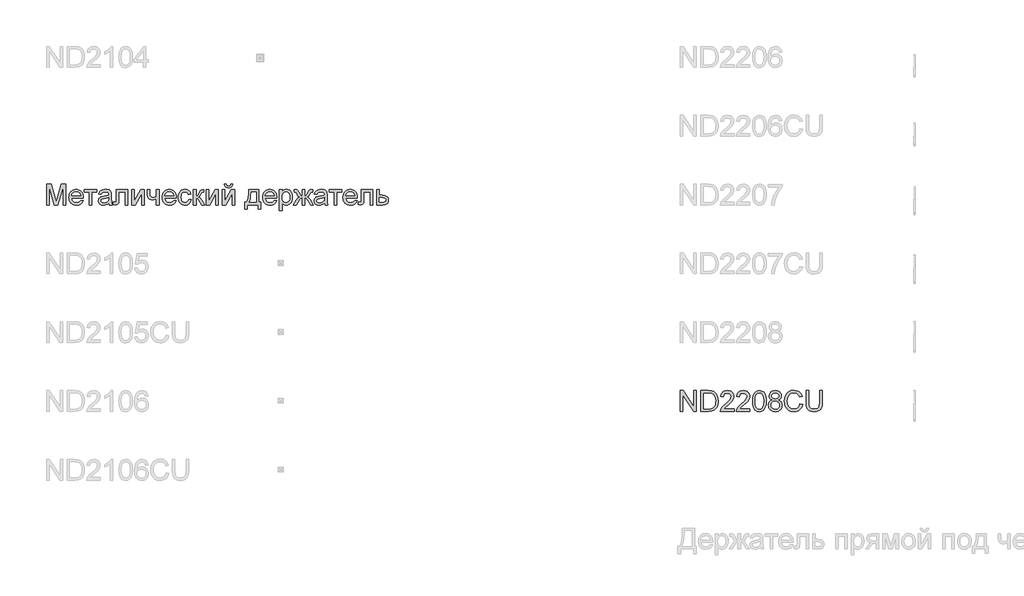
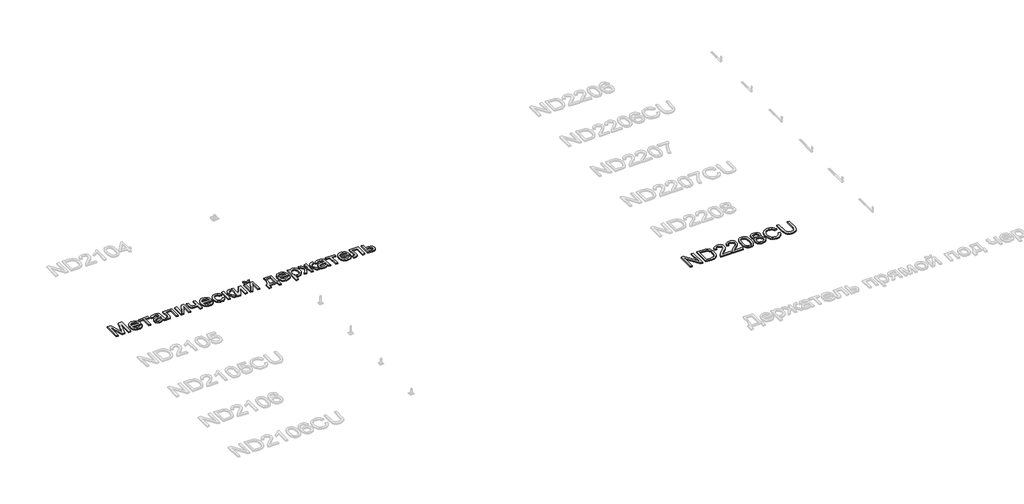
# One storey, part 90 of 124: 2 proxies.
"""IFC4 building model written with IfcOpenShell, lengths in millimetres."""

from ifc_helpers import new_model, si_unit, origin, origin_with_axes, place, context, project, spatial, polyline, outline, extrude, element, save

model = new_model("IFC4")

# Units and contexts
model_context = context("Model", 3, world=origin())
ifc_project = project(units=[si_unit("LENGTHUNIT", "METRE", prefix="MILLI")], contexts=[model_context])

# Site, building, storey
site = spatial("IfcSite", under=ifc_project)
building = spatial("IfcBuilding", under=site)
storey = spatial("IfcBuildingStorey", under=building, Name="Этаж 01", Elevation=0.0)

# Proxies
placement = place(None, origin())
element("IfcBuildingElementProxy", 1, Name="300", ObjectType="300", at=placement, inside=storey, context=model_context, shape_type="SweptSolid", body=[
    extrude(outline(polyline([(14140.1671275, -21519.5141033), (14140.1671275, -21218.1451728), (14204.9879351, -21218.1451728), (14266.6449575, -21430.5602368), (14279.0793689, -21474.9268054), (14292.5438499, -21426.8814169), (14353.1708027, -21218.1451728), (14417.9916103, -21218.1451728), (14417.9916103, -21519.5141033), (14380.320494, -21519.5141033), (14380.320494, -21255.8162891), (14304.6103794, -21519.5141033), (14253.5483584, -21519.5141033), (14177.8382438, -21255.8162891), (14177.8382438, -21519.5141033), (14140.1671275, -21519.5141033)])), origin_with_axes(), (0.0, 0.0, 1.0), 20.0),
    extrude(outline(polyline([(14634.1590707, -21453.5896497), (14671.094423, -21458.2985393), (14657.7862918, -21486.1288122), (14636.5503036, -21506.932539), (14607.864705, -21519.9003794), (14572.2077427, -21524.2229928), (14548.8334404, -21522.3582909), (14528.0067209, -21516.7641853), (14509.7275843, -21507.440676), (14493.9960305, -21494.387763), (14481.3454884, -21477.9687297), (14472.3093869, -21458.5468596), (14466.887726, -21436.1221527), (14465.0805057, -21410.6946091), (14466.9061201, -21384.404842), (14472.3829633, -21361.2328748), (14481.5110353, -21341.1787076), (14494.2903361, -21324.2423402), (14509.9805032, -21310.7870562), (14527.841174, -21301.1761391), (14547.8723487, -21295.4095888), (14570.0740271, -21293.4874054), (14591.5606349, -21295.4049903), (14610.991702, -21301.157745), (14628.3672285, -21310.7456695), (14643.6872143, -21324.1687638), (14656.1929029, -21341.068343), (14665.1255376, -21361.085722), (14670.4851184, -21384.220901), (14672.2716454, -21410.4738799), (14672.0509162, -21420.627423), (14502.751622, -21420.627423), (14509.2723303, -21448.8255779), (14524.4198715, -21469.5557283), (14546.2812591, -21482.3028394), (14572.9435067, -21486.5518765), (14592.9930754, -21484.5837078), (14609.878859, -21478.6792018), (14623.6008574, -21468.4704764), (14634.1590707, -21453.5896497)]), holes=[polyline([(14502.751622, -21382.9563067), (14634.600529, -21382.9563067), (14629.5053634, -21363.0538907), (14619.5173672, -21348.8168575), (14597.5548121, -21335.5731057), (14569.9268743, -21331.1585217), (14544.5338196, -21334.6809918), (14523.5369547, -21345.2484021), (14508.9412365, -21361.7203185), (14502.751622, -21382.9563067)])]), origin_with_axes(), (0.0, 0.0, 1.0), 20.0),
    extrude(outline(polyline([(14691.1072035, -21298.196295), (14870.045006, -21298.196295), (14870.045006, -21335.8674113), (14799.4116629, -21335.8674113), (14799.4116629, -21519.5141033), (14761.7405466, -21519.5141033), (14761.7405466, -21335.8674113), (14691.1072035, -21335.8674113), (14691.1072035, -21298.196295)])), origin_with_axes(), (0.0, 0.0, 1.0), 20.0),
    extrude(outline(polyline([(15044.2739189, -21491.260766), (15026.2752923, -21506.6934157), (15007.7432368, -21516.7917765), (14988.2546881, -21522.3651887), (14967.3865819, -21524.2229928), (14935.9050801, -21519.7532266), (14912.6825292, -21506.3439278), (14898.3627225, -21485.9816594), (14893.5894537, -21460.652984), (14895.3920754, -21445.0363933), (14900.7999408, -21430.8545424), (14909.141665, -21418.7144366), (14919.7458635, -21409.2230811), (14946.1230026, -21396.8622461), (14978.7173473, -21391.1968633), (15017.2345922, -21385.237175), (15044.0531897, -21378.2474171), (15044.2739189, -21369.8597076), (15041.6803508, -21353.0475004), (15033.8996466, -21342.0478288), (15016.4988282, -21333.8808485), (14992.2554048, -21331.1585217), (14969.8146031, -21332.9703406), (14954.1428301, -21338.405797), (14943.4558581, -21348.4581726), (14935.9694595, -21364.1207485), (14898.2983432, -21359.411859), (14904.8374457, -21338.8104672), (14914.5955156, -21322.6236594), (14928.4830609, -21310.2444303), (14947.4105895, -21301.0657745), (14970.5595641, -21295.3819977), (14997.1114471, -21293.4874054), (15022.5780782, -21295.1612685), (15042.7656027, -21300.1828577), (15057.9867202, -21307.7336357), (15068.5541306, -21316.9950649), (15075.5622826, -21328.445392), (15080.1056252, -21342.5628636), (15081.9450352, -21375.5250903), (15081.9450352, -21422.3932565), (15083.8580216, -21487.8394635), (15091.3628143, -21519.5141033), (15053.691698, -21519.5141033), (15044.2739189, -21491.260766)]), holes=[polyline([(15044.2739189, -21415.9185334), (14983.4998133, -21427.4700281), (14951.0894095, -21433.5768692), (14936.4109179, -21443.5096831), (14931.26057, -21458.0042337), (14934.0656702, -21469.2062404), (14942.4809708, -21478.3848962), (14956.3225309, -21484.5101314), (14975.4064094, -21486.5518765), (14995.6399191, -21484.2985993), (15013.5189841, -21477.5387676), (15028.0135347, -21467.5783626), (15038.0935014, -21455.7233653), (15042.5632676, -21443.5096831), (15044.0531897, -21426.5871113), (15044.2739189, -21415.9185334)])]), origin_with_axes(), (0.0, 0.0, 1.0), 20.0),
    extrude(outline(polyline([(15152.5783783, -21298.196295), (15322.0984016, -21298.196295), (15322.0984016, -21519.2933741), (15284.4272853, -21519.2933741), (15284.4272853, -21335.8674113), (15190.2494946, -21335.8674113), (15190.2494946, -21441.4495439), (15187.7111088, -21490.15712), (15182.956234, -21501.1843829), (15173.7683812, -21510.7217236), (15159.8256536, -21517.3160083), (15140.8061544, -21519.5141033), (15110.1983724, -21517.6011169), (15110.1983724, -21481.842987), (15127.0473678, -21481.842987), (15144.0803042, -21479.5253304), (15150.8861211, -21472.1676905), (15152.5783783, -21439.3158283), (15152.5783783, -21298.196295)])), origin_with_axes(), (0.0, 0.0, 1.0), 20.0),
    extrude(outline(polyline([(15378.6050761, -21298.196295), (15416.2761924, -21298.196295), (15416.2761924, -21466.9805543), (15508.8353024, -21298.196295), (15557.5428785, -21298.196295), (15557.5428785, -21519.5141033), (15519.8717622, -21519.5141033), (15519.8717622, -21351.7599135), (15427.9012634, -21519.5141033), (15378.6050761, -21519.5141033), (15378.6050761, -21298.196295)])), origin_with_axes(), (0.0, 0.0, 1.0), 20.0),
    extrude(outline(polyline([(15599.9228844, -21298.196295), (15637.5940007, -21298.196295), (15637.5940007, -21340.6498772), (15640.6474213, -21380.4547091), (15645.8437544, -21392.0245978), (15655.3259129, -21402.012594), (15668.4225119, -21408.9103814), (15684.4621669, -21411.2096439), (15707.5099739, -21408.3585584), (15736.480681, -21399.805302), (15736.480681, -21298.196295), (15774.1517973, -21298.196295), (15774.1517973, -21519.5141033), (15736.480681, -21519.5141033), (15736.480681, -21435.931314), (15704.3277946, -21445.6433986), (15674.3822002, -21448.8807602), (15651.6011077, -21445.5054429), (15631.6711006, -21435.379491), (15616.1372833, -21420.3607085), (15606.5447603, -21402.3068996), (15601.5783534, -21381.7606902), (15599.9228844, -21359.2647062), (15599.9228844, -21298.196295)])), origin_with_axes(), (0.0, 0.0, 1.0), 20.0),
    extrude(outline(polyline([(15985.6103681, -21453.5896497), (16022.5457204, -21458.2985393), (16009.2375893, -21486.1288122), (15988.0016011, -21506.932539), (15959.3160025, -21519.9003794), (15923.6590401, -21524.2229928), (15900.2847379, -21522.3582909), (15879.4580184, -21516.7641853), (15861.1788818, -21507.440676), (15845.447328, -21494.387763), (15832.7967859, -21477.9687297), (15823.7606844, -21458.5468596), (15818.3390235, -21436.1221527), (15816.5318031, -21410.6946091), (15818.3574176, -21384.404842), (15823.8342608, -21361.2328748), (15832.9623328, -21341.1787076), (15845.7416336, -21324.2423402), (15861.4318007, -21310.7870562), (15879.2924715, -21301.1761391), (15899.3236462, -21295.4095888), (15921.5253246, -21293.4874054), (15943.0119324, -21295.4049903), (15962.4429995, -21301.157745), (15979.818526, -21310.7456695), (15995.1385118, -21324.1687638), (16007.6442004, -21341.068343), (16016.5768351, -21361.085722), (16021.9364159, -21384.220901), (16023.7229428, -21410.4738799), (16023.5022136, -21420.627423), (15854.2029195, -21420.627423), (15860.7236278, -21448.8255779), (15875.871169, -21469.5557283), (15897.7325565, -21482.3028394), (15924.3948041, -21486.5518765), (15944.4443729, -21484.5837078), (15961.3301565, -21478.6792018), (15975.0521549, -21468.4704764), (15985.6103681, -21453.5896497)]), holes=[polyline([(15854.2029195, -21382.9563067), (15986.0518265, -21382.9563067), (15980.9566609, -21363.0538907), (15970.9686647, -21348.8168575), (15949.0061096, -21335.5731057), (15921.3781718, -21331.1585217), (15895.9851171, -21334.6809918), (15874.9882522, -21345.2484021), (15860.392534, -21361.7203185), (15854.2029195, -21382.9563067)])]), origin_with_axes(), (0.0, 0.0, 1.0), 20.0),
    extrude(outline(polyline([(16202.6607453, -21439.4629811), (16240.3318616, -21444.1718706), (16229.8288306, -21477.6767234), (16210.0919616, -21502.9962017), (16182.9790585, -21518.916295), (16150.3479256, -21524.2229928), (16129.2200027, -21522.3720865), (16110.2763792, -21516.8193676), (16093.5170551, -21507.5648362), (16078.9420303, -21494.6084922), (16067.1445146, -21478.1940574), (16058.7177176, -21458.5652537), (16053.6616395, -21435.7220811), (16051.9762801, -21409.6645395), (16054.8549567, -21376.1412927), (16063.4909865, -21347.0878121), (16078.0223253, -21323.6261379), (16098.5869289, -21306.87831), (16123.1890373, -21296.8351316), (16149.8328908, -21293.4874054), (16181.6638804, -21298.0859304), (16207.1121174, -21311.8815052), (16225.3682614, -21334.1383659), (16235.6229721, -21364.1207485), (16197.9518557, -21368.829638), (16191.1184477, -21352.3945099), (16180.477461, -21340.613089), (16166.6175068, -21333.5221635), (16150.1271964, -21331.1585217), (16125.7826053, -21335.812229), (16106.4596035, -21349.7733507), (16093.8504482, -21373.796045), (16089.6473964, -21408.6344699), (16093.7584777, -21443.9419444), (16106.0917216, -21468.0474121), (16125.0652355, -21481.9257604), (16149.0971268, -21486.5518765), (16168.6040696, -21483.6640028), (16184.5977393, -21475.0003818), (16196.2320074, -21460.3402843), (16202.6607453, -21439.4629811)])), origin_with_axes(), (0.0, 0.0, 1.0), 20.0),
    extrude(outline(polyline([(16273.2940884, -21298.196295), (16310.9652047, -21298.196295), (16310.9652047, -21392.3740857), (16326.2874898, -21390.6818285), (16336.2019095, -21385.605057), (16344.9758951, -21372.3613052), (16356.8768777, -21346.1681071), (16374.0569668, -21312.1390226), (16389.213705, -21301.0657745), (16416.7680665, -21298.196295), (16423.9785536, -21298.196295), (16423.9785536, -21336.0881405), (16413.8250105, -21335.8674113), (16395.4309108, -21339.8405368), (16382.4814645, -21364.6357833), (16367.2879381, -21391.4543807), (16345.9875706, -21404.587768), (16357.9253414, -21409.8898672), (16369.7527475, -21419.2478655), (16393.076466, -21450.131559), (16433.3963327, -21519.5141033), (16390.5748684, -21519.5141033), (16351.0643421, -21451.603087), (16331.1987144, -21422.8715031), (16321.909694, -21417.6567758), (16310.9652047, -21415.9185334), (16310.9652047, -21519.5141033), (16273.2940884, -21519.5141033), (16273.2940884, -21298.196295)])), origin_with_axes(), (0.0, 0.0, 1.0), 20.0),
    extrude(outline(polyline([(16456.9407804, -21298.196295), (16494.6118967, -21298.196295), (16494.6118967, -21466.9805543), (16587.1710066, -21298.196295), (16635.8785828, -21298.196295), (16635.8785828, -21519.5141033), (16598.2074665, -21519.5141033), (16598.2074665, -21351.7599135), (16506.2369677, -21519.5141033), (16456.9407804, -21519.5141033), (16456.9407804, -21298.196295)])), origin_with_axes(), (0.0, 0.0, 1.0), 20.0),
    extrude(outline(polyline([(16692.3852573, -21298.196295), (16730.0563736, -21298.196295), (16730.0563736, -21466.9805543), (16822.6154836, -21298.196295), (16871.3230597, -21298.196295), (16871.3230597, -21519.5141033), (16833.6519434, -21519.5141033), (16833.6519434, -21351.7599135), (16741.6814446, -21519.5141033), (16692.3852573, -21519.5141033), (16692.3852573, -21298.196295)])), origin_with_axes(), (0.0, 0.0, 1.0), 20.0),
    extrude(outline(polyline([(16814.8163853, -21218.1451728), (16843.0697225, -21218.1451728), (16836.9904725, -21242.2690346), (16824.7859873, -21260.0469321), (16807.0080899, -21271.0006185), (16784.2086033, -21274.6518473), (16759.4685391, -21271.0282096), (16740.283493, -21260.1572967), (16727.1684999, -21242.4069904), (16720.6385945, -21218.1451728), (16748.8919317, -21218.1451728), (16752.8650573, -21230.5519931), (16759.4869332, -21239.3719639), (16768.7943477, -21244.6418735), (16780.8240889, -21246.39851), (16794.3989345, -21244.6970558), (16804.2213838, -21239.5926931), (16810.8432597, -21230.8279046), (16814.8163853, -21218.1451728)])), origin_with_axes(), (0.0, 0.0, 1.0), 20.0),
    extrude(outline(polyline([(17078.5141994, -21298.196295), (17219.7808856, -21298.196295), (17219.7808856, -21481.842987), (17248.0342228, -21481.842987), (17248.0342228, -21580.7296673), (17210.3631065, -21580.7296673), (17210.3631065, -21519.5141033), (17054.9697517, -21519.5141033), (17054.9697517, -21580.7296673), (17017.2986354, -21580.7296673), (17017.2986354, -21481.842987), (17040.8430831, -21481.842987), (17057.9587929, -21450.9133082), (17069.9425489, -21409.9956333), (17076.7943511, -21359.0899622), (17078.5141994, -21298.196295)]), holes=[polyline([(17111.4764262, -21335.8674113), (17108.3862174, -21381.9906164), (17102.6472583, -21421.6942807), (17094.2595488, -21454.9784043), (17083.2230889, -21481.842987), (17182.1097692, -21481.842987), (17182.1097692, -21335.8674113), (17111.4764262, -21335.8674113)])]), origin_with_axes(), (0.0, 0.0, 1.0), 20.0),
    extrude(outline(polyline([(17445.366125, -21453.5896497), (17482.3014773, -21458.2985393), (17468.9933461, -21486.1288122), (17447.757358, -21506.932539), (17419.0717594, -21519.9003794), (17383.414797, -21524.2229928), (17360.0404947, -21522.3582909), (17339.2137753, -21516.7641853), (17320.9346387, -21507.440676), (17305.2030848, -21494.387763), (17292.5525427, -21477.9687297), (17283.5164412, -21458.5468596), (17278.0947803, -21436.1221527), (17276.28756, -21410.6946091), (17278.1131744, -21384.404842), (17283.5900176, -21361.2328748), (17292.7180896, -21341.1787076), (17305.4973904, -21324.2423402), (17321.1875575, -21310.7870562), (17339.0482284, -21301.1761391), (17359.079403, -21295.4095888), (17381.2810814, -21293.4874054), (17402.7676892, -21295.4049903), (17422.1987563, -21301.157745), (17439.5742828, -21310.7456695), (17454.8942687, -21324.1687638), (17467.3999572, -21341.068343), (17476.3325919, -21361.085722), (17481.6921728, -21384.220901), (17483.4786997, -21410.4738799), (17483.2579705, -21420.627423), (17313.9586763, -21420.627423), (17320.4793847, -21448.8255779), (17335.6269258, -21469.5557283), (17357.4883134, -21482.3028394), (17384.150561, -21486.5518765), (17404.2001297, -21484.5837078), (17421.0859133, -21478.6792018), (17434.8079117, -21468.4704764), (17445.366125, -21453.5896497)]), holes=[polyline([(17313.9586763, -21382.9563067), (17445.8075834, -21382.9563067), (17440.7124178, -21363.0538907), (17430.7244216, -21348.8168575), (17408.7618665, -21335.5731057), (17381.1339286, -21331.1585217), (17355.7408739, -21334.6809918), (17334.744009, -21345.2484021), (17320.1482909, -21361.7203185), (17313.9586763, -21382.9563067)])]), origin_with_axes(), (0.0, 0.0, 1.0), 20.0),
    extrude(outline(polyline([(17521.149816, -21604.2741149), (17521.149816, -21298.196295), (17558.8209323, -21298.196295), (17558.8209323, -21335.1316473), (17571.1081909, -21316.9122915), (17584.8669776, -21303.8984659), (17600.9066326, -21296.0901705), (17620.0364963, -21293.4874054), (17645.5123245, -21297.1294372), (17667.7875793, -21308.0555324), (17685.9241616, -21325.6035036), (17698.9839725, -21349.1111631), (17706.8750413, -21376.8678596), (17709.5053975, -21407.1629419), (17706.5347504, -21439.3802077), (17697.6228091, -21468.1945649), (17683.0546821, -21492.1436828), (17663.1154779, -21509.7652304), (17639.892927, -21520.6085522), (17615.4747596, -21524.2229928), (17598.1567146, -21521.8041687), (17582.6964738, -21514.5476963), (17569.461919, -21503.5940099), (17558.8209323, -21490.0835436), (17558.8209323, -21604.2741149), (17521.149816, -21604.2741149)]), holes=[polyline([(17558.8209323, -21410.6210327), (17562.8952254, -21444.3925998), (17575.1181047, -21468.0106239), (17593.1535195, -21481.9165634), (17614.6654192, -21486.5518765), (17636.5268067, -21481.7510165), (17655.022074, -21467.3484363), (17667.6312294, -21442.8658896), (17671.8342812, -21407.8251295), (17667.732397, -21374.2375034), (17655.4267442, -21350.2883855), (17637.4189206, -21335.9409877), (17616.2105236, -21331.1585217), (17594.9193531, -21336.2444903), (17576.2217507, -21351.5023961), (17563.1711369, -21376.4539924), (17558.8209323, -21410.6210327)])]), origin_with_axes(), (0.0, 0.0, 1.0), 20.0),
    extrude(outline(polyline([(17888.4432, -21298.196295), (17888.4432, -21392.3740857), (17901.7329371, -21390.4335082), (17910.4057551, -21384.6117756), (17931.1910878, -21344.3286972), (17944.1589282, -21319.220751), (17955.9863343, -21305.7010877), (17970.3521262, -21300.0724931), (17991.2294294, -21298.196295), (18006.1654384, -21298.196295), (18006.1654384, -21336.0881405), (17995.7911662, -21335.8674113), (17976.3669968, -21339.7669604), (17962.9025158, -21364.1943249), (17947.267531, -21390.9761341), (17924.9370939, -21404.587768), (17937.3301186, -21409.8898672), (17949.5667935, -21419.2478655), (17973.5710937, -21450.131559), (18015.5832175, -21519.5141033), (17972.3938713, -21519.5141033), (17931.043935, -21451.0880522), (17919.7407607, -21433.1262137), (17909.9642967, -21422.6507739), (17900.0774681, -21417.6015935), (17888.4432, -21415.9185334), (17888.4432, -21519.5141033), (17850.7720837, -21519.5141033), (17850.7720837, -21415.9185334), (17839.2297861, -21417.5648053), (17829.3245634, -21422.5036211), (17819.4745229, -21432.9054845), (17808.0977722, -21450.9408994), (17766.747836, -21519.5141033), (17723.6320661, -21519.5141033), (17765.4970372, -21450.131559), (17789.6852784, -21419.2478655), (17801.9863326, -21409.8898672), (17814.4253426, -21404.587768), (17800.0411565, -21397.3772809), (17790.7337421, -21389.5781826), (17770.4266559, -21350.9505731), (17760.4938421, -21338.221856), (17744.2334579, -21335.6466821), (17733.0498452, -21335.8674113), (17733.0498452, -21298.196295), (17738.7152279, -21298.196295), (17771.7510311, -21300.5507397), (17788.8943321, -21310.55713), (17808.0977722, -21344.3286972), (17828.6623758, -21384.3542582), (17837.3351938, -21390.3691289), (17850.7720837, -21392.3740857), (17850.7720837, -21298.196295), (17888.4432, -21298.196295)])), origin_with_axes(), (0.0, 0.0, 1.0), 20.0),
    extrude(outline(polyline([(18175.6854618, -21491.260766), (18157.6868352, -21506.6934157), (18139.1547797, -21516.7917765), (18119.666231, -21522.3651887), (18098.7981248, -21524.2229928), (18067.3166231, -21519.7532266), (18044.0940721, -21506.3439278), (18029.7742655, -21485.9816594), (18025.0009966, -21460.652984), (18026.8036184, -21445.0363933), (18032.2114837, -21430.8545424), (18040.5532079, -21418.7144366), (18051.1574065, -21409.2230811), (18077.5345455, -21396.8622461), (18110.1288903, -21391.1968633), (18148.6461352, -21385.237175), (18175.4647326, -21378.2474171), (18175.6854618, -21369.8597076), (18173.0918938, -21353.0475004), (18165.3111896, -21342.0478288), (18147.9103712, -21333.8808485), (18123.6669477, -21331.1585217), (18101.226146, -21332.9703406), (18085.554373, -21338.405797), (18074.867401, -21348.4581726), (18067.3810024, -21364.1207485), (18029.7098861, -21359.411859), (18036.2489886, -21338.8104672), (18046.0070585, -21322.6236594), (18059.8946038, -21310.2444303), (18078.8221325, -21301.0657745), (18101.971107, -21295.3819977), (18128.52299, -21293.4874054), (18153.9896212, -21295.1612685), (18174.1771456, -21300.1828577), (18189.3982632, -21307.7336357), (18199.9656735, -21316.9950649), (18206.9738255, -21328.445392), (18211.5171681, -21342.5628636), (18213.3565781, -21375.5250903), (18213.3565781, -21422.3932565), (18215.2695645, -21487.8394635), (18222.7743572, -21519.5141033), (18185.1032409, -21519.5141033), (18175.6854618, -21491.260766)]), holes=[polyline([(18175.6854618, -21415.9185334), (18114.9113562, -21427.4700281), (18082.5009524, -21433.5768692), (18067.8224608, -21443.5096831), (18062.6721129, -21458.0042337), (18065.4772131, -21469.2062404), (18073.8925138, -21478.3848962), (18087.7340738, -21484.5101314), (18106.8179523, -21486.5518765), (18127.0514621, -21484.2985993), (18144.930527, -21477.5387676), (18159.4250776, -21467.5783626), (18169.5050443, -21455.7233653), (18173.9748105, -21443.5096831), (18175.4647326, -21426.5871113), (18175.6854618, -21415.9185334)])]), origin_with_axes(), (0.0, 0.0, 1.0), 20.0),
    extrude(outline(polyline([(18246.3188049, -21298.196295), (18425.2566073, -21298.196295), (18425.2566073, -21335.8674113), (18354.6232643, -21335.8674113), (18354.6232643, -21519.5141033), (18316.952148, -21519.5141033), (18316.952148, -21335.8674113), (18246.3188049, -21335.8674113), (18246.3188049, -21298.196295)])), origin_with_axes(), (0.0, 0.0, 1.0), 20.0),
    extrude(outline(polyline([(18613.1707305, -21453.5896497), (18650.1060828, -21458.2985393), (18636.7979516, -21486.1288122), (18615.5619635, -21506.932539), (18586.8763649, -21519.9003794), (18551.2194025, -21524.2229928), (18527.8451002, -21522.3582909), (18507.0183808, -21516.7641853), (18488.7392441, -21507.440676), (18473.0076903, -21494.387763), (18460.3571482, -21477.9687297), (18451.3210467, -21458.5468596), (18445.8993858, -21436.1221527), (18444.0921655, -21410.6946091), (18445.9177799, -21384.404842), (18451.3946231, -21361.2328748), (18460.5226951, -21341.1787076), (18473.3019959, -21324.2423402), (18488.992163, -21310.7870562), (18506.8528339, -21301.1761391), (18526.8840085, -21295.4095888), (18549.0856869, -21293.4874054), (18570.5722947, -21295.4049903), (18590.0033618, -21301.157745), (18607.3788883, -21310.7456695), (18622.6988742, -21324.1687638), (18635.2045627, -21341.068343), (18644.1371974, -21361.085722), (18649.4967782, -21384.220901), (18651.2833052, -21410.4738799), (18651.062576, -21420.627423), (18481.7632818, -21420.627423), (18488.2839902, -21448.8255779), (18503.4315313, -21469.5557283), (18525.2929189, -21482.3028394), (18551.9551665, -21486.5518765), (18572.0047352, -21484.5837078), (18588.8905188, -21478.6792018), (18602.6125172, -21468.4704764), (18613.1707305, -21453.5896497)]), holes=[polyline([(18481.7632818, -21382.9563067), (18613.6121889, -21382.9563067), (18608.5170232, -21363.0538907), (18598.5290271, -21348.8168575), (18576.566472, -21335.5731057), (18548.9385341, -21331.1585217), (18523.5454794, -21334.6809918), (18502.5486145, -21345.2484021), (18487.9528964, -21361.7203185), (18481.7632818, -21382.9563067)])]), origin_with_axes(), (0.0, 0.0, 1.0), 20.0),
    extrude(outline(polyline([(18707.7899796, -21298.196295), (18877.310003, -21298.196295), (18877.310003, -21519.2933741), (18839.6388867, -21519.2933741), (18839.6388867, -21335.8674113), (18745.4610959, -21335.8674113), (18745.4610959, -21441.4495439), (18742.9227102, -21490.15712), (18738.1678354, -21501.1843829), (18728.9799826, -21510.7217236), (18715.0372549, -21517.3160083), (18696.0177558, -21519.5141033), (18665.4099738, -21517.6011169), (18665.4099738, -21481.842987), (18682.2589692, -21481.842987), (18699.2919056, -21479.5253304), (18706.0977225, -21472.1676905), (18707.7899796, -21439.3158283), (18707.7899796, -21298.196295)])), origin_with_axes(), (0.0, 0.0, 1.0), 20.0),
    extrude(outline(polyline([(18933.8166775, -21298.196295), (18971.4877938, -21298.196295), (18971.4877938, -21378.2474171), (19014.8978692, -21378.2474171), (19052.5321973, -21382.9655037), (19067.6797385, -21388.8631119), (19080.3808644, -21397.1197635), (19090.4240428, -21407.4503497), (19097.5977417, -21419.5697622), (19103.3367009, -21449.1750658), (19098.4530674, -21476.131619), (19083.8021669, -21498.8759233), (19072.5702697, -21507.9051271), (19058.4091122, -21514.3545583), (19021.2990159, -21519.5141033), (18933.8166775, -21519.5141033), (18933.8166775, -21298.196295)]), holes=[polyline([(18971.4877938, -21481.842987), (19006.6573125, -21481.842987), (19033.9449595, -21479.8656212), (19052.0907389, -21473.9335241), (19062.2718731, -21463.8075721), (19065.6655846, -21449.2486422), (19063.1547899, -21436.9429894), (19055.6224061, -21426.0720765), (19039.4815835, -21418.4569192), (19011.1454729, -21415.9185334), (18971.4877938, -21415.9185334), (18971.4877938, -21481.842987)])]), origin_with_axes(), (0.0, 0.0, 1.0), 20.0),
])
element("IfcBuildingElementProxy", 2, Name="300", ObjectType="300", at=placement, inside=storey, context=model_context, shape_type="SweptSolid", body=[
    extrude(outline(polyline([(23340.1671275, -24519.5141033), (23340.1671275, -24218.1451728), (23380.4869942, -24218.1451728), (23537.9404881, -24456.9005877), (23537.9404881, -24218.1451728), (23575.6116044, -24218.1451728), (23575.6116044, -24519.5141033), (23535.2917378, -24519.5141033), (23377.8382438, -24280.685112), (23377.8382438, -24519.5141033), (23340.1671275, -24519.5141033)])), origin_with_axes(), (0.0, 0.0, 1.0), 20.0),
    extrude(outline(polyline([(23641.536058, -24519.5141033), (23641.536058, -24218.1451728), (23745.4995098, -24218.1451728), (23799.2838575, -24222.4861804), (23823.3065518, -24230.8554957), (23843.5768497, -24244.0440653), (23864.4173648, -24266.9999018), (23879.2614033, -24295.5475446), (23888.1457534, -24329.1351708), (23891.1072035, -24367.2109573), (23889.1022466, -24399.5569817), (23883.087376, -24428.0218511), (23873.9271143, -24452.2560775), (23862.4859843, -24471.9101731), (23849.3158089, -24487.4255962), (23834.968411, -24499.2438053), (23818.4964947, -24508.0085939), (23798.9527637, -24514.3637553), (23750.5027049, -24519.5141033), (23641.536058, -24519.5141033)]), holes=[polyline([(23679.2071743, -24481.842987), (23745.8673918, -24481.842987), (23773.4401473, -24480.4818236), (23794.3542388, -24476.3983334), (23810.1363764, -24469.8316398), (23822.3132704, -24461.020866), (23835.4006724, -24444.7144966), (23845.2323187, -24423.6072671), (23851.3851451, -24397.6072071), (23853.4360872, -24366.6223461), (23849.4169764, -24325.5667154), (23837.359644, -24295.253239), (23819.5449584, -24274.4311181), (23798.2537879, -24261.8495538), (23776.5855384, -24257.3246053), (23744.8373222, -24255.8162891), (23679.2071743, -24255.8162891), (23679.2071743, -24481.842987)])]), origin_with_axes(), (0.0, 0.0, 1.0), 20.0),
    extrude(outline(polyline([(24121.8427909, -24481.842987), (24121.8427909, -24519.5141033), (23924.0694303, -24519.5141033), (23928.1161322, -24493.5416344), (23937.4051526, -24473.2437453), (23950.9983923, -24453.5528615), (23970.661685, -24432.9422727), (23998.1608641, -24409.8852687), (24038.8118246, -24373.7776509), (24063.2024008, -24347.1246003), (24075.397689, -24325.493139), (24079.462785, -24304.4502889), (24075.6276152, -24285.5871396), (24064.1221058, -24269.9061695), (24046.4361789, -24259.3387592), (24024.0597566, -24255.8162891), (24000.5612941, -24259.2559858), (23982.3051501, -24269.5750757), (23970.5237292, -24285.9642186), (23966.4494361, -24307.614074), (23928.7783198, -24302.9051845), (23937.9109903, -24266.4664729), (23946.4573489, -24251.9305355), (23957.6570564, -24239.8502105), (23971.2525954, -24230.3542565), (23986.9864485, -24223.5714322), (24024.869097, -24218.1451728), (24045.0589207, -24219.653489), (24063.0276569, -24224.1784375), (24078.7753056, -24231.7200184), (24092.3018667, -24242.2782317), (24103.1658818, -24255.0713281), (24110.9258927, -24269.3175583), (24115.5818992, -24285.0169225), (24117.1339013, -24302.1694205), (24115.4600383, -24320.1864412), (24110.438449, -24337.8907622), (24101.5265077, -24355.8985859), (24088.1815883, -24374.8261146), (24066.9088119, -24397.4232661), (24034.2132996, -24426.4399585), (23990.8768006, -24462.676335), (23973.8806524, -24481.842987), (24121.8427909, -24481.842987)])), origin_with_axes(), (0.0, 0.0, 1.0), 20.0),
    extrude(outline(polyline([(24352.5783783, -24481.842987), (24352.5783783, -24519.5141033), (24154.8050176, -24519.5141033), (24158.8517196, -24493.5416344), (24168.14074, -24473.2437453), (24181.7339797, -24453.5528615), (24201.3972723, -24432.9422727), (24228.8964515, -24409.8852687), (24269.5474119, -24373.7776509), (24293.9379882, -24347.1246003), (24306.1332764, -24325.493139), (24310.1983724, -24304.4502889), (24306.3632026, -24285.5871396), (24294.8576932, -24269.9061695), (24277.1717663, -24259.3387592), (24254.7953439, -24255.8162891), (24231.2968815, -24259.2559858), (24213.0407375, -24269.5750757), (24201.2593166, -24285.9642186), (24197.1850235, -24307.614074), (24159.5139072, -24302.9051845), (24168.6465777, -24266.4664729), (24177.1929363, -24251.9305355), (24188.3926438, -24239.8502105), (24201.9881828, -24230.3542565), (24217.7220359, -24223.5714322), (24255.6046843, -24218.1451728), (24275.7945081, -24219.653489), (24293.7632443, -24224.1784375), (24309.5108929, -24231.7200184), (24323.037454, -24242.2782317), (24333.9014692, -24255.0713281), (24341.66148, -24269.3175583), (24346.3174865, -24285.0169225), (24347.8694887, -24302.1694205), (24346.1956256, -24320.1864412), (24341.1740364, -24337.8907622), (24332.2620951, -24355.8985859), (24318.9171757, -24374.8261146), (24297.6443993, -24397.4232661), (24264.948887, -24426.4399585), (24221.612388, -24462.676335), (24204.6162398, -24481.842987), (24352.5783783, -24481.842987)])), origin_with_axes(), (0.0, 0.0, 1.0), 20.0),
    extrude(outline(polyline([(24390.2494946, -24371.2576592), (24393.0178066, -24323.0191326), (24401.3227426, -24284.5478729), (24415.0815292, -24255.2552691), (24434.211393, -24234.5527098), (24458.8502896, -24222.2470571), (24489.1361749, -24218.1451728), (24512.3495288, -24220.573194), (24533.1348615, -24227.8572575), (24550.5172858, -24239.7122548), (24563.5219143, -24255.8530773), (24573.3443636, -24276.1417694), (24581.1802501, -24300.4403751), (24586.3122039, -24331.2964775), (24588.0228552, -24371.2576592), (24585.2821343, -24419.2202743), (24577.0599717, -24457.5995635), (24563.3839585, -24486.9197585), (24544.2816859, -24507.7050912), (24519.587607, -24520.0935174), (24489.1361749, -24524.2229928), (24468.3876303, -24522.4295681), (24449.9935306, -24517.0492939), (24433.9538756, -24508.0821703), (24420.2686654, -24495.5281972), (24407.1352781, -24472.8344766), (24397.7542873, -24444.5581467), (24392.1256927, -24410.6992076), (24390.2494946, -24371.2576592)]), holes=[polyline([(24427.9206109, -24371.1840828), (24432.3351948, -24430.4406752), (24437.8534247, -24450.7086739), (24445.5789466, -24464.7364742), (24465.2974216, -24481.0980259), (24489.1361749, -24486.5518765), (24512.9749282, -24481.0796318), (24532.6934031, -24464.6628978), (24540.418925, -24450.6121048), (24545.9371549, -24430.3487047), (24550.3517389, -24371.1840828), (24546.0843077, -24313.2610627), (24540.7500188, -24293.0597426), (24533.2820143, -24278.6985492), (24513.6003275, -24261.5368541), (24488.6947165, -24255.8162891), (24465.1134806, -24260.8562725), (24446.1675578, -24275.9762225), (24438.1845185, -24291.6112072), (24432.4823476, -24312.6908456), (24427.9206109, -24371.1840828)])]), origin_with_axes(), (0.0, 0.0, 1.0), 20.0),
    extrude(outline(polyline([(24675.8730756, -24353.525747), (24655.7039452, -24343.5929332), (24641.5496855, -24330.1284521), (24633.1895671, -24313.4082155), (24630.402861, -24293.7081346), (24631.9203742, -24278.3444628), (24636.4729139, -24264.2591809), (24644.0604801, -24251.452289), (24654.6830727, -24239.9237869), (24667.8302555, -24230.3956433), (24682.9915922, -24223.5898263), (24719.3567274, -24218.1451728), (24755.9425919, -24223.718585), (24771.2694755, -24230.6853503), (24784.6189934, -24240.4388217), (24795.434724, -24252.1926515), (24803.1602459, -24265.1604918), (24807.7955591, -24279.3423427), (24809.3406635, -24294.7382042), (24806.5907456, -24313.8036886), (24798.3409918, -24330.2388167), (24784.4994317, -24343.6205243), (24764.9740948, -24353.525747), (24788.1598576, -24365.4727148), (24805.0364441, -24383.0666712), (24815.3279429, -24405.4614877), (24818.7584425, -24431.8110356), (24817.0569883, -24450.6006085), (24811.9526256, -24467.8266829), (24803.4453545, -24483.4892589), (24791.5351749, -24497.5883363), (24776.8474862, -24509.2409985), (24760.0076879, -24517.5643287), (24741.0157799, -24522.5583268), (24719.8717622, -24524.2229928), (24698.7277446, -24522.551429), (24679.7358366, -24517.5367375), (24662.8960382, -24509.1789185), (24648.2083496, -24497.4779717), (24636.29817, -24483.280026), (24627.7908988, -24467.4312098), (24622.6865362, -24449.9315231), (24620.9850819, -24430.780966), (24624.5535373, -24403.4105456), (24635.2589033, -24380.8961675), (24652.5493571, -24364.0103839), (24675.8730756, -24353.525747)]), holes=[polyline([(24668.0739773, -24294.8117806), (24671.4125064, -24311.2561058), (24681.4280937, -24324.389493), (24697.8264337, -24332.9979317), (24720.3132206, -24335.8674113), (24742.2757757, -24333.0163258), (24758.4257953, -24324.4630694), (24768.3586092, -24311.7711406), (24771.6695472, -24296.5040378), (24768.2482446, -24280.6575208), (24757.9843369, -24267.5517248), (24741.6135882, -24258.750148), (24719.8717622, -24255.8162891), (24697.9919806, -24258.6857687), (24681.6488229, -24267.2942074), (24671.4676887, -24279.9125598), (24668.0739773, -24294.8117806)]), polyline([(24658.6561982, -24429.4565908), (24664.9469804, -24457.8202927), (24673.6565866, -24469.9879897), (24687.2038411, -24479.0470838), (24703.4274371, -24484.6756783), (24720.1660678, -24486.5518765), (24745.8074429, -24482.6063421), (24765.0476712, -24470.7697389), (24777.0774125, -24452.8446887), (24781.0873262, -24430.6338132), (24776.9486538, -24408.0458587), (24764.5326365, -24389.7253354), (24744.8509497, -24377.5852295), (24718.9152691, -24373.5385276), (24693.6325789, -24377.5300472), (24674.5854886, -24389.5046062), (24662.6385208, -24407.4756416), (24658.6561982, -24429.4565908)])]), origin_with_axes(), (0.0, 0.0, 1.0), 20.0),
    extrude(outline(polyline([(25077.7473671, -24412.3868663), (25115.4184835, -24422.0989509), (25107.9642745, -24445.5261362), (25098.0360592, -24465.99647), (25085.6338374, -24483.5099522), (25070.7576092, -24498.0665829), (25053.743067, -24509.5100123), (25034.9259029, -24517.6838903), (25014.3061171, -24522.5882172), (24991.8837095, -24524.2229928), (24948.1885255, -24519.27498), (24913.4880563, -24504.4309415), (24886.890188, -24480.2059121), (24867.5028069, -24447.1149266), (24855.6662037, -24408.2114056), (24851.7206693, -24366.5487697), (24856.1812385, -24322.6052653), (24869.5629461, -24284.6582375), (24891.1668162, -24253.9124998), (24920.2938732, -24231.5728656), (24954.8379926, -24217.9704289), (24992.6930499, -24213.4362833), (25033.9970009, -24219.3040011), (25051.9657371, -24226.6386484), (25068.1456471, -24236.9071546), (25082.2700164, -24249.8382067), (25094.0721307, -24265.1604918), (25110.7095939, -24302.9787609), (25073.0384776, -24311.9550816), (25059.9786668, -24284.4834936), (25042.13639, -24265.6387384), (25019.2909181, -24254.7402343), (24991.2215219, -24251.1073996), (24958.8663004, -24255.1357074), (24932.2868263, -24267.220631), (24912.1176959, -24286.0929773), (24898.9935057, -24310.4835536), (24891.7922156, -24338.0563091), (24889.3917856, -24366.4751933), (24892.233674, -24401.27683), (24900.7593393, -24431.3695772), (24915.2906781, -24455.6038036), (24936.1495872, -24472.8298781), (24961.1563658, -24483.1213769), (24988.1313131, -24486.5518765), (25019.5760267, -24481.8797752), (25045.7784218, -24467.8634711), (25065.5612761, -24444.6501172), (25077.7473671, -24412.3868663)])), origin_with_axes(), (0.0, 0.0, 1.0), 20.0),
    extrude(outline(polyline([(25364.989629, -24218.1451728), (25402.6607453, -24218.1451728), (25402.6607453, -24392.0062037), (25400.1039654, -24432.7215435), (25392.4336258, -24464.0742866), (25378.1046221, -24488.2625278), (25355.5718499, -24507.484362), (25324.7801269, -24520.0383351), (25285.6742708, -24524.2229928), (25247.4237404, -24520.580961), (25216.8435495, -24509.6548658), (25193.9245012, -24491.8217861), (25178.6573984, -24467.4588009), (25170.0765509, -24434.7816827), (25167.2162684, -24392.0062037), (25167.2162684, -24218.1451728), (25204.8873847, -24218.1451728), (25204.8873847, -24390.6818285), (25206.7451888, -24424.5361692), (25212.318601, -24448.108208), (25222.4169618, -24464.4329715), (25237.8496114, -24476.5454862), (25257.9727566, -24484.0502789), (25282.1426037, -24486.5518765), (25320.4575135, -24481.6038637), (25334.8003128, -24475.4188476), (25345.9333416, -24466.7598252), (25354.2704673, -24454.5829311), (25360.2255571, -24437.8443003), (25364.989629, -24390.6818285), (25364.989629, -24218.1451728)])), origin_with_axes(), (0.0, 0.0, 1.0), 20.0),
])

save(model, "model.ifc")
